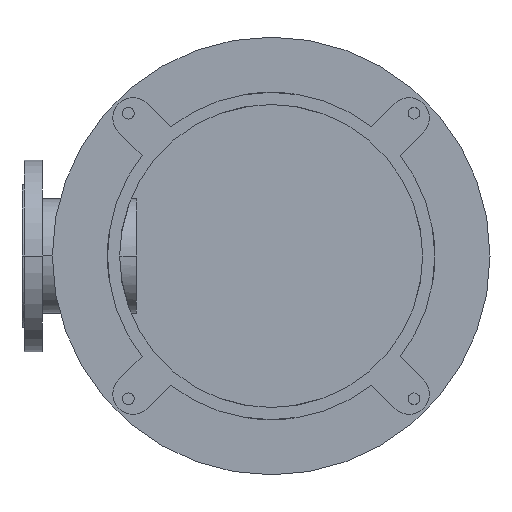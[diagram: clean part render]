
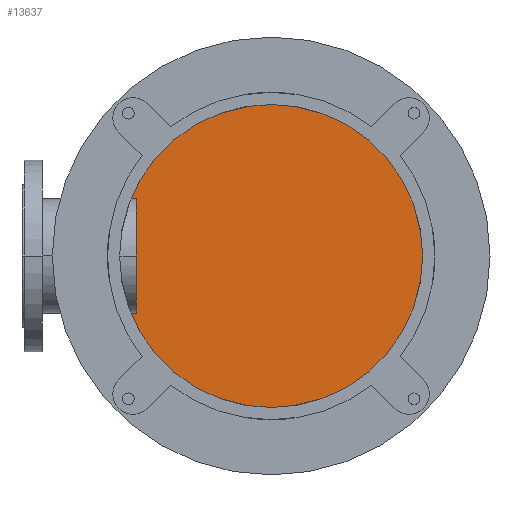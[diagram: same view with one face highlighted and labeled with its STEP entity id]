
A CAD part, front view. The second image highlights one B-rep face of the part: STEP entity #13637.
In plain terms, the highlighted planar face has unit normal (0, -1, 0).
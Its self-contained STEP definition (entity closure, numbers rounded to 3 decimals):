
#3273=CARTESIAN_POINT('',(0.,836.,0.));
#3274=DIRECTION('',(0.,-1.,0.));
#3275=DIRECTION('',(0.,0.,1.));
#3276=AXIS2_PLACEMENT_3D('',#3273,#3274,#3275);
#3442=CARTESIAN_POINT('',(0.,836.,0.));
#3443=DIRECTION('',(0.,-1.,0.));
#3444=DIRECTION('',(0.,0.,-1.));
#3445=AXIS2_PLACEMENT_3D('',#3442,#3443,#3444);
#8571=CARTESIAN_POINT('',(0.,836.,240.));
#8572=CARTESIAN_POINT('',(0.,836.,-240.));
#8573=VERTEX_POINT('',#8571);
#8574=VERTEX_POINT('',#8572);
#13627=CARTESIAN_POINT('',(0.,836.,0.));
#13628=DIRECTION('',(0.,1.,0.));
#13629=DIRECTION('',(0.,0.,-1.));
#13630=AXIS2_PLACEMENT_3D('',#13627,#13628,#13629);
#13631=PLANE('',#13630);
#13632=ORIENTED_EDGE('',*,*,#13605,.F.);
#13634=ORIENTED_EDGE('',*,*,#13633,.F.);
#13635=EDGE_LOOP('',(#13632,#13634));
#13636=FACE_OUTER_BOUND('',#13635,.F.);
#13637=ADVANCED_FACE('',(#13636),#13631,.F.);
#3277=CIRCLE('',#3276,240.);
#3446=CIRCLE('',#3445,240.);
#13605=EDGE_CURVE('',#8573,#8574,#3277,.T.);
#13633=EDGE_CURVE('',#8574,#8573,#3446,.T.);
